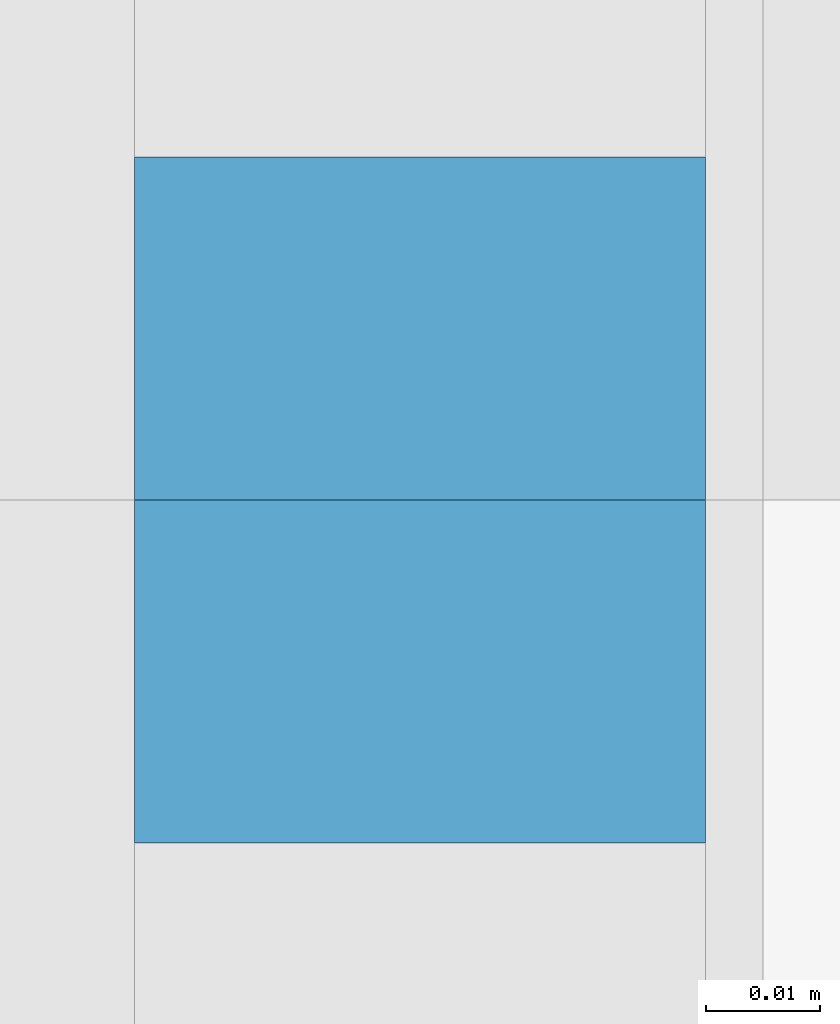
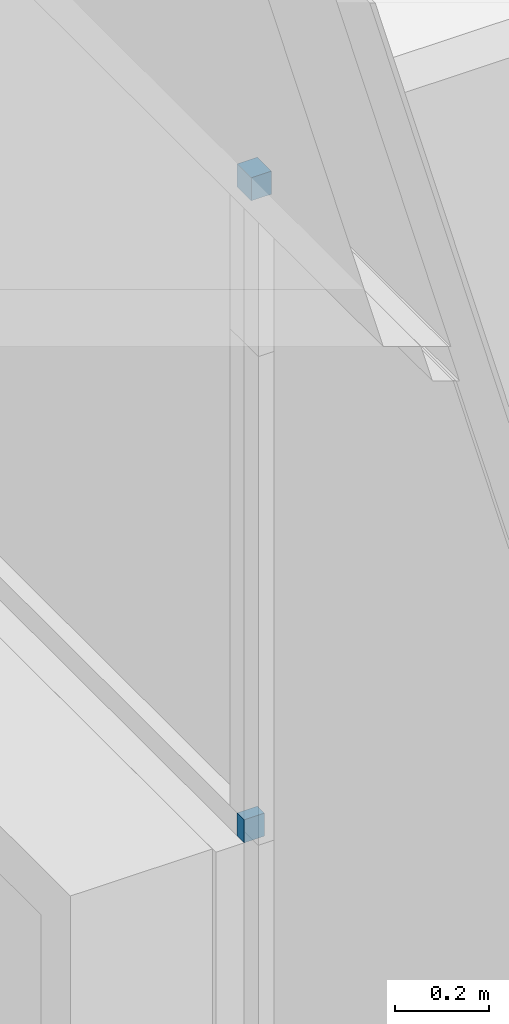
# One storey, part 17 of 118: 2 members, 1 element without a shape of its own.
"""IFC2X3 building model written with IfcOpenShell, lengths in millimetres."""

from ifc_helpers import new_model, entity, si_unit, converted_unit, derived_unit, direction, frame, origin, origin_2d_with_axis, place, context, subcontext, project, spatial, rectangle, extrude, source, transform, mapped, material, type_object, type_shapes, element, aggregate, save


model = new_model("IFC2X3")

# Units and contexts
model_context = context("Model", 3, precision=0.01, world=origin(), true_north=direction((6.123031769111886e-17, 1.0)))
plan_context = context("Plan", 3, precision=0.01, world=origin(), true_north=direction((6.123031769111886e-17, 1.0)))
body_context = subcontext(model_context, "Body", "Model", "MODEL_VIEW")
ifc_project = project(units=[si_unit("LENGTHUNIT", "METRE", prefix="MILLI"), si_unit("AREAUNIT", "SQUARE_METRE"), si_unit("VOLUMEUNIT", "CUBIC_METRE"), converted_unit("PLANEANGLEUNIT", "DEGREE", entity("IfcRatioMeasure", 0.017453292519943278), si_unit("PLANEANGLEUNIT", "RADIAN"), dimensions=[0, 0, 0, 0, 0, 0, 0]), si_unit("MASSUNIT", "GRAM", prefix="KILO"), derived_unit("MASSDENSITYUNIT", [(si_unit("MASSUNIT", "GRAM", prefix="KILO"), 1), (si_unit("LENGTHUNIT", "METRE"), -3)]), derived_unit("IONCONCENTRATIONUNIT", [(si_unit("MASSUNIT", "GRAM", prefix="KILO"), 1), (si_unit("LENGTHUNIT", "METRE"), -3)]), derived_unit("MOMENTOFINERTIAUNIT", [(si_unit("LENGTHUNIT", "METRE"), 4)]), si_unit("TIMEUNIT", "SECOND"), si_unit("FREQUENCYUNIT", "HERTZ"), si_unit("THERMODYNAMICTEMPERATUREUNIT", "DEGREE_CELSIUS"), derived_unit("THERMALTRANSMITTANCEUNIT", [(si_unit("MASSUNIT", "GRAM", prefix="KILO"), 1), (si_unit("THERMODYNAMICTEMPERATUREUNIT", "KELVIN"), -1), (si_unit("TIMEUNIT", "SECOND"), -3)]), derived_unit("THERMALCONDUCTANCEUNIT", [(si_unit("MASSUNIT", "GRAM", prefix="KILO"), 1), (si_unit("THERMODYNAMICTEMPERATUREUNIT", "KELVIN"), -1), (si_unit("TIMEUNIT", "SECOND"), -3), (si_unit("LENGTHUNIT", "METRE"), 1)]), derived_unit("VOLUMETRICFLOWRATEUNIT", [(si_unit("LENGTHUNIT", "METRE"), 3), (si_unit("TIMEUNIT", "SECOND"), -1)]), derived_unit("MASSFLOWRATEUNIT", [(si_unit("MASSUNIT", "GRAM", prefix="KILO"), 1), (si_unit("TIMEUNIT", "SECOND"), -1)]), derived_unit("ROTATIONALFREQUENCYUNIT", [(si_unit("TIMEUNIT", "SECOND"), -1)]), si_unit("ELECTRICCURRENTUNIT", "AMPERE"), si_unit("ELECTRICVOLTAGEUNIT", "VOLT"), si_unit("POWERUNIT", "WATT"), si_unit("FORCEUNIT", "NEWTON", prefix="KILO"), si_unit("ILLUMINANCEUNIT", "LUX"), si_unit("LUMINOUSFLUXUNIT", "LUMEN"), si_unit("LUMINOUSINTENSITYUNIT", "CANDELA"), derived_unit("USERDEFINED", [(si_unit("MASSUNIT", "GRAM", prefix="KILO"), -1), (si_unit("LENGTHUNIT", "METRE"), -2), (si_unit("TIMEUNIT", "SECOND"), 3), (si_unit("LUMINOUSFLUXUNIT", "LUMEN"), 1)]), derived_unit("USERDEFINED", [(si_unit("MASSUNIT", "GRAM", prefix="KILO"), 1), (si_unit("TIMEUNIT", "SECOND"), -3), (si_unit("LENGTHUNIT", "METRE"), 3), (si_unit("ELECTRICCURRENTUNIT", "AMPERE"), -2)]), derived_unit("SOUNDPOWERUNIT", [(si_unit("MASSUNIT", "GRAM", prefix="KILO"), 1), (si_unit("TIMEUNIT", "SECOND"), -3), (si_unit("LENGTHUNIT", "METRE"), 2)]), derived_unit("SOUNDPRESSUREUNIT", [(si_unit("MASSUNIT", "GRAM", prefix="KILO"), 1), (si_unit("LENGTHUNIT", "METRE"), -1), (si_unit("TIMEUNIT", "SECOND"), -2)]), derived_unit("LINEARVELOCITYUNIT", [(si_unit("LENGTHUNIT", "METRE"), 1), (si_unit("TIMEUNIT", "SECOND"), -1)]), si_unit("PRESSUREUNIT", "PASCAL"), derived_unit("USERDEFINED", [(si_unit("MASSUNIT", "GRAM", prefix="KILO"), 1), (si_unit("LENGTHUNIT", "METRE"), -2), (si_unit("TIMEUNIT", "SECOND"), -2)]), derived_unit("LINEARFORCEUNIT", [(si_unit("MASSUNIT", "GRAM", prefix="KILO"), 1), (si_unit("TIMEUNIT", "SECOND"), -2)]), derived_unit("PLANARFORCEUNIT", [(si_unit("MASSUNIT", "GRAM", prefix="KILO"), 1), (si_unit("LENGTHUNIT", "METRE"), -1), (si_unit("TIMEUNIT", "SECOND"), -2)]), derived_unit("SPECIFICHEATCAPACITYUNIT", [(si_unit("THERMODYNAMICTEMPERATUREUNIT", "KELVIN"), -1), (si_unit("LENGTHUNIT", "METRE"), 2), (si_unit("TIMEUNIT", "SECOND"), -2)]), derived_unit("HEATINGVALUEUNIT", [(si_unit("LENGTHUNIT", "METRE"), 2), (si_unit("TIMEUNIT", "SECOND"), -2)]), derived_unit("VAPORPERMEABILITYUNIT", [(si_unit("LENGTHUNIT", "METRE"), -1), (si_unit("TIMEUNIT", "SECOND"), 1)]), derived_unit("DYNAMICVISCOSITYUNIT", [(si_unit("MASSUNIT", "GRAM", prefix="KILO"), 1), (si_unit("TIMEUNIT", "SECOND"), -1), (si_unit("LENGTHUNIT", "METRE"), -1)]), derived_unit("THERMALEXPANSIONCOEFFICIENTUNIT", [(si_unit("THERMODYNAMICTEMPERATUREUNIT", "KELVIN"), -1)]), derived_unit("MODULUSOFELASTICITYUNIT", [(si_unit("MASSUNIT", "GRAM", prefix="KILO"), 1), (si_unit("LENGTHUNIT", "METRE"), -1), (si_unit("TIMEUNIT", "SECOND"), -2)]), derived_unit("ISOTHERMALMOISTURECAPACITYUNIT", [(si_unit("LENGTHUNIT", "METRE"), 3), (si_unit("MASSUNIT", "GRAM", prefix="KILO"), -1)]), derived_unit("MOISTUREDIFFUSIVITYUNIT", [(si_unit("TIMEUNIT", "SECOND"), -1), (si_unit("LENGTHUNIT", "METRE"), 2)])], contexts=[model_context, plan_context])

# Site, building, storey
site_placement = place(None, origin())
site = spatial("IfcSite", under=ifc_project, at=site_placement, Name="Locatie", CompositionType="ELEMENT")
building_placement = place(site_placement, origin())
building = spatial("IfcBuilding", under=site, at=building_placement, Name="Bouwwerk", CompositionType="ELEMENT")
storey_placement = place(building_placement, frame((0.0, 0.0, 7800.0)))
storey = spatial("IfcBuildingStorey", under=building, at=storey_placement, Name="02 tweede verdieping", CompositionType="ELEMENT", Elevation=7800.000000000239)

# Curtain wall, members
curtain_wall_type = type_object("IfcCurtainWallType", Name="Curtain Wall:32_BDG_Jansen Economy 50", PredefinedType="NOTDEFINED")
curtain_wall_placement = place(storey_placement, frame((0.0, 0.0, -7800.0)))
curtain_wall = element("IfcCurtainWall", 1, at=curtain_wall_placement, inside=storey, type_object=curtain_wall_type, Name="Curtain Wall:32_BDG_Jansen Economy 50", ObjectType="Curtain Wall:32_BDG_Jansen Economy 50")
ifc_material = material(Name="h2_staal_gen")
member_type_1 = type_object("IfcMemberType", Name="Rectangular Mullion:CWM_Jansen Economy 50 bxh=50x60mm", PredefinedType="MULLION", material=ifc_material)
shared_shape_1 = source(origin(), body_context, "Body", "SweptSolid", [
    extrude(rectangle(XDim=50.0, YDim=60.0, at=origin_2d_with_axis()), frame((-30.0, 0.0, -60.0), z_axis=(0.0, 0.0, 1.0), x_axis=(0.0, -1.0, 0.0)), (0.0, 0.0, 1.0), 60.00000000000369),
])
type_shapes(member_type_1, [shared_shape_1])
member_1_placement = place(curtain_wall_placement, frame((21717.0, 22289.836885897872, 10600.0), z_axis=(0.0, -1.0, 0.0), x_axis=(0.0, 0.0, 1.0)))
member_1 = element("IfcMember", 2, at=member_1_placement, type_object=member_type_1, material=ifc_material, Name="Rectangular Mullion:CWM_Jansen Economy 50 bxh=50x60mm", ObjectType="Rectangular Mullion:CWM_Jansen Economy 50 bxh=50x60mm", context=body_context, shape_type="MappedRepresentation", body=[
    mapped(shared_shape_1, transform((0.0, 0.0, 0.0), scale=1.0)),
])
member_type_2 = type_object("IfcMemberType", Name="Rectangular Mullion:CWM_Jansen Economy 50 bxh=50x60mm", PredefinedType="MULLION", material=ifc_material)
shared_shape_2 = source(origin(), body_context, "Body", "SweptSolid", [
    extrude(rectangle(XDim=50.0, YDim=60.0, at=origin_2d_with_axis()), frame((0.0, 0.0, -30.0), z_axis=(0.0, 0.0, 1.0), x_axis=(0.0, -1.0, 0.0)), (0.0, 0.0, 1.0), 30.000000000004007),
])
type_shapes(member_type_2, [shared_shape_2])
member_2_placement = place(curtain_wall_placement, frame((21717.0, 22319.836885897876, 8880.0), z_axis=(0.0, -1.0, 0.0), x_axis=(0.0, 0.0, 1.0)))
member_2 = element("IfcMember", 3, at=member_2_placement, type_object=member_type_2, material=ifc_material, Name="Rectangular Mullion:CWM_Jansen Economy 50 bxh=50x60mm", ObjectType="Rectangular Mullion:CWM_Jansen Economy 50 bxh=50x60mm", context=body_context, shape_type="MappedRepresentation", body=[
    mapped(shared_shape_2, transform((0.0, 0.0, 0.0), scale=1.0)),
])
aggregate(curtain_wall, [member_1, member_2])

save(model, "model.ifc")
